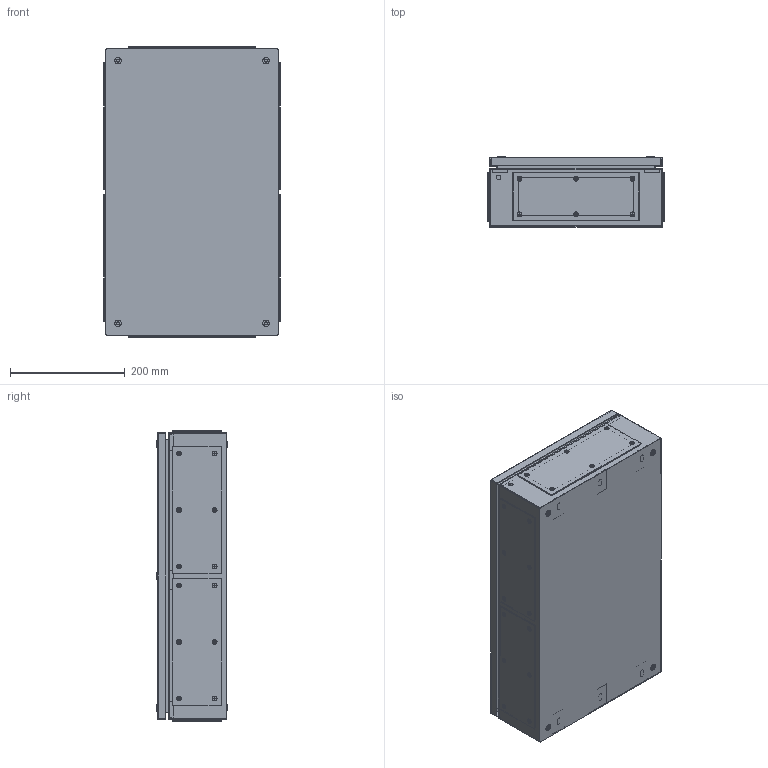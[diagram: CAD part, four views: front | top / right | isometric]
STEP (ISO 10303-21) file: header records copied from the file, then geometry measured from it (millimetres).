
FILE_DESCRIPTION(('Open CASCADE Model'),'2;1');
FILE_NAME('Open CASCADE Shape Model','2025-11-18T11:06:00',('Author'),( 'Open CASCADE'),'Open CASCADE STEP processor 7.8','Open CASCADE 7.8' ,'Unknown');
FILE_SCHEMA(('AUTOMOTIVE_DESIGN { 1 0 10303 214 1 1 1 1 }'));
Length unit declared in the file: millimetre
Products named in the file (21): Compound1; Compound2; Compound3; Solid1; Solid2; Solid3; Solid4; Solid5; Solid6; Compound4; Compound5; Solid7; Solid8; Solid9; Compound6; Solid10; Solid11; Solid12; Solid13; Solid14; Solid15
Assembly tree (95 placements, depth 5):
  Compound1
    Compound2
      Compound3
        Solid1
        Solid2  x2
        Solid3  x2
        Solid4  x2
        Solid5
        Solid6  x2
      Compound4
        Compound5
          Solid7
          Solid5
        Solid8
      Solid9  x6
      Compound6  x6
        Solid10
        Solid11
      Solid12  x12
      Solid13  x6
      Solid14  x6
    Solid15  x4
    Solid12  x36
Bounding box: 309 x 123.79 x 509 mm (x, y, z)
Volume: 978115.4 mm3; surface area: 1386257.4 mm2
Topology: 95 solids, 95 shells, 3125 faces, 8066 edges, 5165 vertices
Faces by surface type: plane 1972, cylinder 573, cone 440, torus 88, bspline 40, sphere 12
Full cylindrical faces by diameter (mm): 1.5 x4, 3.5 x36, 4 x70, 4.134 x6, 5 x10, 5.2 x6, 5.3 x6, 5.5 x6, 6 x2, 6.5 x4, 7.5 x8, 8 x11, 8.4 x48, 8.5 x6, 11.5 x4, 13.5 x6, 15.791 x6
Entity records: 24066 total; most frequent: CARTESIAN_POINT 6542, ORIENTED_EDGE 3594, DIRECTION 3389, EDGE_CURVE 1797, VERTEX_POINT 1193, AXIS2_PLACEMENT_3D 1167, LINE 1055, VECTOR 1055
